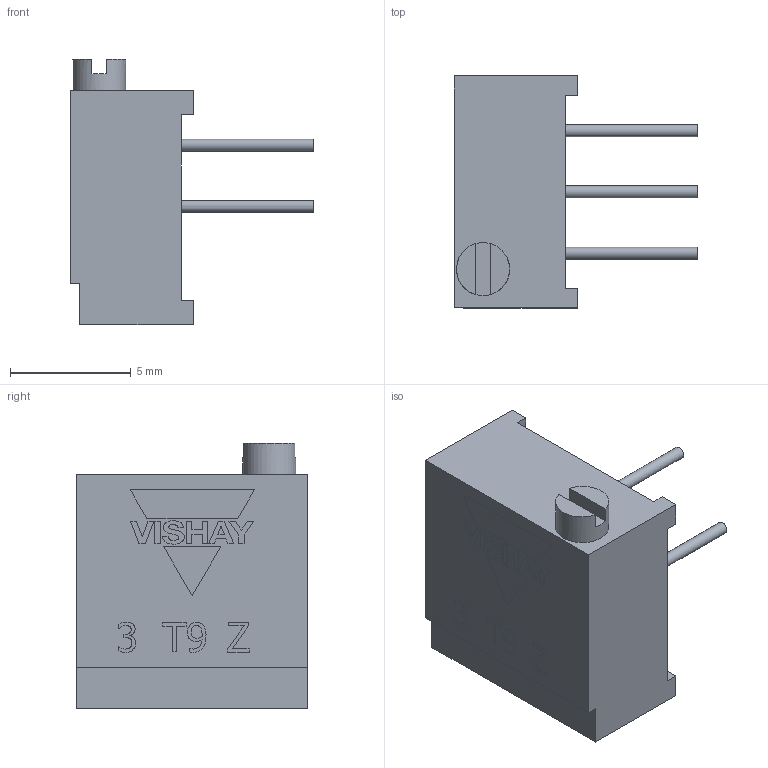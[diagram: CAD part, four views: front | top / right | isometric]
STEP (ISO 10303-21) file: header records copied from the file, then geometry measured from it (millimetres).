
FILE_DESCRIPTION(/* description */ ('Unknown'),/* implementation_level */ '2;1');
FILE_NAME(/* name */ 'T9Z',/* time_stamp */ '2018-01-18T11:05:10+01:00',/* author */ ('Unknown'),/* organization */ ('Unknown'),/* preprocessor_version */ 'ST-DEVELOPER v16.7',/* originating_system */ 'DEX',/* authorisation */ $);
FILE_SCHEMA (('AUTOMOTIVE_DESIGN {1 0 10303 214 3 1 1}'));
Length unit declared in the file: millimetre
Products named in the file (1): Gabarit - T93
Bounding box: 10.1 x 9.6 x 11 mm (x, y, z)
Volume: 430.7 mm3; surface area: 407 mm2
Topology: 1 solids, 1 shells, 140 faces, 360 edges, 240 vertices
Faces by surface type: plane 122, bspline 14, cylinder 4
Full cylindrical faces by diameter (mm): 0.5 x3, 2.2 x1
Entity records: 5662 total; most frequent: CARTESIAN_POINT 1663, ORIENTED_EDGE 710, DIRECTION 432, EDGE_CURVE 355, VERTEX_POINT 239, B_SPLINE_CURVE_WITH_KNOTS 188, EDGE_LOOP 162, FACE_BOUND 162
